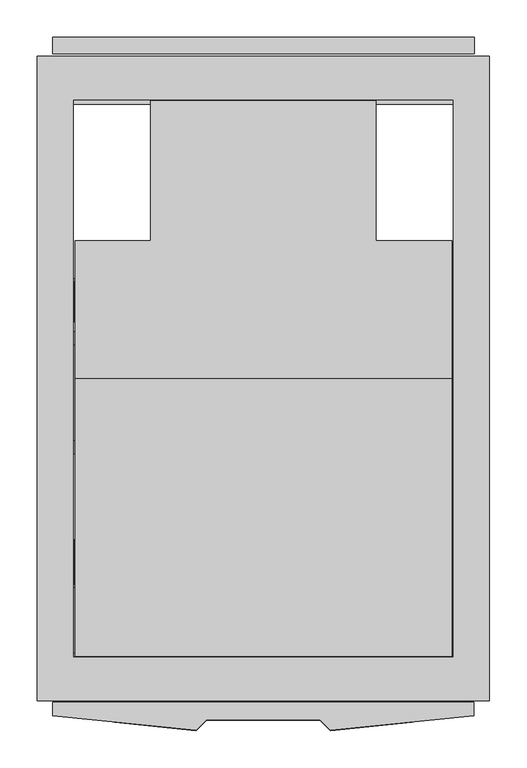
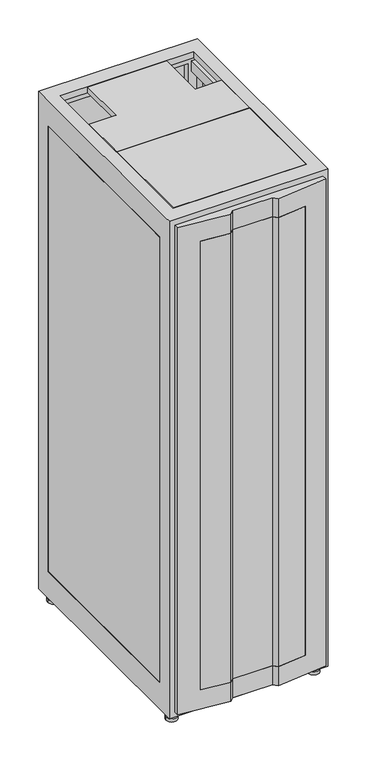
"""IFC4 building model written with IfcOpenShell, lengths in millimetres: electric appliance geometry."""

import ifcopenshell
import ifcopenshell.guid

model = None  # the IFC model being written
_history = None  # IfcOwnerHistory: only IFC2X3 demands one
_inside = {}  # id of a spatial element -> (the spatial element, [elements in it])
_under = {}  # id of a project, library or spatial element -> (it, [spatial elements below it])
_declared = {}  # id of a project -> (the project, [libraries it declares])
_typed = {}  # id of a type object -> (the type object, [elements of that type])
_made_of = {}  # id of a material, layer set ... -> (it, [elements and type objects made of it])


def new_model(schema):
    """Start an empty IFC model of exactly this schema.

    Asked for "IFC4X3", IfcOpenShell would pick the latest addendum, in which some entities
    have other attributes; the version numbers below select the first issue.
    IFC2X3 requires an IfcOwnerHistory on every rooted entity: one is made here for all.
    """
    global model, _history
    if schema == "IFC4X3":
        model = ifcopenshell.file(schema_version=(4, 3, 0, 0))
    else:
        model = ifcopenshell.file(schema=schema)
    _inside.clear()
    _under.clear()
    _declared.clear()
    _typed.clear()
    _made_of.clear()
    _history = None
    if model.schema == "IFC2X3":
        org = make("IfcOrganization", Name="unknown")
        user = make(
            "IfcPersonAndOrganization",
            ThePerson=make("IfcPerson", FamilyName="unknown"),
            TheOrganization=org,
        )
        app = make(
            "IfcApplication",
            ApplicationDeveloper=org,
            Version="unknown",
            ApplicationFullName="unknown",
            ApplicationIdentifier="unknown",
        )
        _history = make(
            "IfcOwnerHistory",
            OwningUser=user,
            OwningApplication=app,
            ChangeAction="ADDED",
            CreationDate=0,
        )
    return model


def make(cls, **values):
    """One entity of the class cls with the attributes given. An attribute that is None is left unset."""
    return model.create_entity(
        cls, **{name: value for name, value in values.items() if value is not None}
    )


def rooted(cls, **values):
    """An entity with a GlobalId (a new one), such as an element, a storey or a relation."""
    return make(cls, GlobalId=ifcopenshell.guid.new(), OwnerHistory=_history, **values)


def si_unit(unit_type, name, prefix=None):
    """IfcSIUnit, for example si_unit("LENGTHUNIT", "METRE", prefix="MILLI")."""
    return make("IfcSIUnit", UnitType=unit_type, Prefix=prefix, Name=name)


def assignment(units):
    """IfcUnitAssignment: the units of a project."""
    return None if units is None else make("IfcUnitAssignment", Units=units)


def point(xyz):
    """IfcCartesianPoint."""
    return None if xyz is None else make("IfcCartesianPoint", Coordinates=xyz)


def direction(xyz):
    """IfcDirection."""
    return None if xyz is None else make("IfcDirection", DirectionRatios=xyz)


def frame(location, z_axis=None, x_axis=None):
    """IfcAxis2Placement3D, a coordinate frame: its origin and axes. An axis left out is left unset."""
    return make(
        "IfcAxis2Placement3D",
        Location=point(location),
        Axis=direction(z_axis),
        RefDirection=direction(x_axis),
    )


def origin():
    """The frame at (0, 0, 0) with its axes left unset."""
    return frame((0.0, 0.0, 0.0))


def place(relative_to, where):
    """IfcLocalPlacement: puts the frame where relative to a parent placement (None: the world)."""
    return make(
        "IfcLocalPlacement", PlacementRelTo=relative_to, RelativePlacement=where
    )


def context(
    kind, dimensions, precision=None, world=None, true_north=None, identifier=None
):
    """IfcGeometricRepresentationContext, for example the 3D "Model" context."""
    return make(
        "IfcGeometricRepresentationContext",
        ContextIdentifier=identifier,
        ContextType=kind,
        CoordinateSpaceDimension=dimensions,
        Precision=precision,
        WorldCoordinateSystem=world,
        TrueNorth=true_north,
    )


def project(units=None, contexts=None):
    """IfcProject with its units and contexts."""
    return rooted(
        "IfcProject",
        Name="project",
        RepresentationContexts=contexts,
        UnitsInContext=assignment(units),
    )


def spatial(cls, under=None, at=None, **own):
    """A site, building, storey or space (cls), placed at a placement, below another one or the project."""
    s = rooted(cls, ObjectPlacement=at, **own)
    if under is not None:
        _under.setdefault(under.id(), (under, []))[1].append(s)
    return s


def polyline(points):
    """IfcPolyline through the points."""
    return make("IfcPolyline", Points=[point(p) for p in points])


def circle_curve(where, radius):
    """IfcCircle in the frame where."""
    return make("IfcCircle", Position=where, Radius=radius)


def outline(outer, holes=None, kind="AREA"):
    """IfcArbitraryClosedProfileDef: a profile drawn as a closed curve; with holes, ...WithVoids."""
    if holes is None:
        return make("IfcArbitraryClosedProfileDef", ProfileType=kind, OuterCurve=outer)
    return make(
        "IfcArbitraryProfileDefWithVoids",
        ProfileType=kind,
        OuterCurve=outer,
        InnerCurves=holes,
    )


def extrude(swept, where, along, depth):
    """IfcExtrudedAreaSolid: the profile swept, set in the frame where, extruded along a direction by depth."""
    return make(
        "IfcExtrudedAreaSolid",
        SweptArea=swept,
        Position=where,
        ExtrudedDirection=direction(along),
        Depth=depth,
    )


def faces_of(points, faces, orient=None, outer=None):
    """IfcFace entities. A face is a list of loops; a loop is a list of indices into points, from 0.

    orient and outer hold one flag for each loop. By default every Orientation is true, the
    first loop of a face is its IfcFaceOuterBound and the others are IfcFaceBound.
    """
    made = []
    for i, loops in enumerate(faces):
        bounds = []
        for j, loop in enumerate(loops):
            is_outer = j == 0 if outer is None else outer[i][j]
            bounds.append(
                make(
                    "IfcFaceOuterBound" if is_outer else "IfcFaceBound",
                    Bound=make("IfcPolyLoop", Polygon=[points[k] for k in loop]),
                    Orientation=True if orient is None else orient[i][j],
                )
            )
        made.append(make("IfcFace", Bounds=bounds))
    return made


def faceted_brep(points, faces, orient=None, outer=None, voids=None):
    """IfcFacetedBrep: a solid bounded by flat faces; with voids (closed shells), ...WithVoids."""
    shared = [point(p) for p in points]
    hull = make("IfcClosedShell", CfsFaces=faces_of(shared, faces, orient, outer))
    if voids is None:
        return make("IfcFacetedBrep", Outer=hull)
    return make(
        "IfcFacetedBrepWithVoids",
        Outer=hull,
        Voids=[
            make(cls, CfsFaces=faces_of(shared, fs, o, b)) for cls, fs, o, b in voids
        ],
    )


def shape(context_of_items, identifier, shape_type, items):
    """IfcShapeRepresentation: the items that make up one representation, for example the "Body"."""
    return make(
        "IfcShapeRepresentation",
        ContextOfItems=context_of_items,
        RepresentationIdentifier=identifier,
        RepresentationType=shape_type,
        Items=items,
    )


def source(mapping_origin, context_of_items, identifier, shape_type, items):
    """IfcRepresentationMap: a shape defined once, which mapped items show again and again."""
    return make(
        "IfcRepresentationMap",
        MappingOrigin=mapping_origin,
        MappedRepresentation=shape(context_of_items, identifier, shape_type, items),
    )


def transform(
    local_origin,
    x_axis=None,
    y_axis=None,
    z_axis=None,
    scale=None,
    scale2=None,
    scale3=None,
    uniform=True,
):
    """IfcCartesianTransformationOperator3D, or its non-uniform kind. x_axis, y_axis, z_axis: its Axis1, 2, 3."""
    if uniform:
        return make(
            "IfcCartesianTransformationOperator3D",
            Axis1=direction(x_axis),
            Axis2=direction(y_axis),
            LocalOrigin=point(local_origin),
            Scale=scale,
            Axis3=direction(z_axis),
        )
    return make(
        "IfcCartesianTransformationOperator3DnonUniform",
        Axis1=direction(x_axis),
        Axis2=direction(y_axis),
        LocalOrigin=point(local_origin),
        Scale=scale,
        Axis3=direction(z_axis),
        Scale2=scale2,
        Scale3=scale3,
    )


def mapped(mapping_source, mapping_target):
    """IfcMappedItem: shows the shape of a source again, moved by a transform."""
    return make(
        "IfcMappedItem", MappingSource=mapping_source, MappingTarget=mapping_target
    )


def made_of(thing, what):
    """Note that an element or type object is made of a material, layer set ...; save() writes the relation."""
    if what is not None:
        _made_of.setdefault(what.id(), (what, []))[1].append(thing)
    return thing


def element(
    cls,
    number,
    at=None,
    inside=None,
    cuts=None,
    type_object=None,
    material=None,
    context=None,
    identifier="Body",
    shape_type=None,
    held_by="IfcProductDefinitionShape",
    body=None,
    shapes=None,
    **own,
):
    """One element of the class cls, such as IfcWall. Its Tag is "e" and its number.

    at: its placement. inside: the storey or other place that contains it. cuts: it is an
    opening in that element (IfcRelVoidsElement). A single representation is given by context,
    identifier, shape_type and body (its items); several are given by shapes. held_by: the class
    of the entity that holds the representations. save() writes the other relations.
    """
    e = rooted(cls, Tag="e%d" % number, ObjectPlacement=at, **own)
    if body is not None:
        shapes = [shape(context, identifier, shape_type, body)]
    if shapes is not None:
        e.Representation = make(held_by, Representations=shapes)
    if inside is not None:
        _inside.setdefault(inside.id(), (inside, []))[1].append(e)
    if cuts is not None:
        rooted(
            "IfcRelVoidsElement", RelatingBuildingElement=cuts, RelatedOpeningElement=e
        )
    if type_object is not None:
        _typed.setdefault(type_object.id(), (type_object, []))[1].append(e)
    return made_of(e, material)


def aggregate(whole, parts):
    """IfcRelAggregates: a whole, such as a stair, and the parts it consists of."""
    return rooted("IfcRelAggregates", RelatingObject=whole, RelatedObjects=parts)


def save(model, path):
    """Write the relations noted so far, then the file.

    IfcRelAggregates (storeys below a building ...), IfcRelContainedInSpatialStructure (elements
    in a storey), IfcRelDefinesByType, IfcRelAssociatesMaterial and IfcRelDeclares: one each for
    every whole, place, type object, material and project.
    """
    for whole, parts in _under.values():
        aggregate(whole, parts)
    for where, things in _inside.values():
        rooted(
            "IfcRelContainedInSpatialStructure",
            RelatedElements=things,
            RelatingStructure=where,
        )
    for kind, things in _typed.values():
        rooted("IfcRelDefinesByType", RelatedObjects=things, RelatingType=kind)
    for what, things in _made_of.values():
        rooted("IfcRelAssociatesMaterial", RelatedObjects=things, RelatingMaterial=what)
    for by, libraries in _declared.values():
        rooted("IfcRelDeclares", RelatingContext=by, RelatedDefinitions=libraries)
    model.write(path)


def plane_surface(at):
    """IfcPlane: the flat surface through the origin of the frame at, square to its z axis."""
    return make("IfcPlane", Position=at)


def cylinder_surface(at, radius):
    """IfcCylindricalSurface: all points at the distance radius from the z axis of the frame at."""
    return make("IfcCylindricalSurface", Position=at, Radius=radius)


def advanced_brep(points, edges, surfaces, faces):
    """IfcAdvancedBrep: a solid bounded by faces that lie on surfaces and meet in shared edges.

    An edge is (start, end): straight between two places in points (the first is 0);
    or (start, end, curve); or (start, end, curve, False) where it runs against its curve.
    A face is (place in surfaces, loops), or (place, loops, False) where it looks against
    its surface's normal. A loop lists edges by number (the first is 1), with a minus sign
    where the edge is run from its end to its start. The first loop is the outer one.
    """
    corners = [point(p) for p in points]
    vertices = [make("IfcVertexPoint", VertexGeometry=c) for c in corners]
    made = []
    for start, end, *more in edges:
        made.append(
            make(
                "IfcEdgeCurve",
                EdgeStart=vertices[start],
                EdgeEnd=vertices[end],
                EdgeGeometry=more[0] if more else make("IfcPolyline", Points=[corners[start], corners[end]]),
                SameSense=more[1] if len(more) > 1 else True,
            )
        )
    hull = []
    for where, loops, *sense in faces:
        bounds = []
        for j, loop in enumerate(loops):
            ring = [make("IfcOrientedEdge", EdgeElement=made[abs(k) - 1], Orientation=k > 0) for k in loop]
            bounds.append(
                make(
                    "IfcFaceOuterBound" if j == 0 else "IfcFaceBound",
                    Bound=make("IfcEdgeLoop", EdgeList=ring),
                    Orientation=True,
                )
            )
        hull.append(make("IfcAdvancedFace", Bounds=bounds, FaceSurface=surfaces[where], SameSense=sense[0] if sense else True))
    return make("IfcAdvancedBrep", Outer=make("IfcClosedShell", CfsFaces=hull))


def electric_appliance_e5aa1008(model_context):
    return source(origin(), model_context, "Body", "SolidModel", [
        advanced_brep(
        [(-292.227, -391.795, 12.7), (-250.063, -391.795, 12.7), (-260.985, -391.795, 12.7), (-281.305, -391.795, 12.7), (-292.227, -391.795, 0.0), (-250.063, -391.795, 0.0), (-281.305, -391.795, 34.2138), (-260.985, -391.795, 34.2138)],
        [
            (0, 1, circle_curve(frame((-271.145, -391.795, 12.7), z_axis=(0.0, 0.0, 1.0), x_axis=(1.0, 0.0, 0.0)), 21.082)),
            (1, 0, circle_curve(frame((-271.145, -391.795, 12.7), z_axis=(0.0, 0.0, 1.0), x_axis=(1.0, 0.0, 0.0)), 21.082)),
            (2, 3, circle_curve(frame((-271.145, -391.795, 12.7), z_axis=(0.0, 0.0, -1.0), x_axis=(1.0, 0.0, 0.0)), 10.16)),
            (3, 2, circle_curve(frame((-271.145, -391.795, 12.7), z_axis=(0.0, 0.0, -1.0), x_axis=(1.0, 0.0, 0.0)), 10.16)),
            (4, 5, circle_curve(frame((-271.145, -391.795, 0.0), z_axis=(0.0, 0.0, -1.0), x_axis=(1.0, 0.0, 0.0)), 21.082)),
            (5, 4, circle_curve(frame((-271.145, -391.795, 0.0), z_axis=(0.0, 0.0, -1.0), x_axis=(1.0, 0.0, 0.0)), 21.082)),
            (0, 4),
            (5, 1),
            (6, 7, circle_curve(frame((-271.145, -391.795, 34.2138), z_axis=(0.0, 0.0, 1.0), x_axis=(1.0, 0.0, 0.0)), 10.16)),
            (7, 6, circle_curve(frame((-271.145, -391.795, 34.2138), z_axis=(0.0, 0.0, 1.0), x_axis=(1.0, 0.0, 0.0)), 10.16)),
            (6, 3),
            (2, 7),
        ],
        [
            plane_surface(frame((-250.063, -391.795, 12.7), z_axis=(0.0, 0.0, 1.0), x_axis=(0.0, 1.0, 0.0))),
            plane_surface(frame((-250.063, -391.795, 0.0), z_axis=(0.0, 0.0, -1.0), x_axis=(0.0, -1.0, 0.0))),
            cylinder_surface(frame((-271.145, -391.795, 0.0), z_axis=(0.0, 0.0, 1.0), x_axis=(1.0, 0.0, 0.0)), 21.082),
            plane_surface(frame((-260.985, -391.795, 34.2138), z_axis=(0.0, 0.0, 1.0), x_axis=(0.0, 1.0, 0.0))),
            cylinder_surface(frame((-271.145, -391.795, 12.7), z_axis=(0.0, 0.0, 1.0), x_axis=(1.0, 0.0, 0.0)), 10.16),
        ],
        [
            (0, [[1, 2], [3, 4]]),
            (1, [[5, 6]]),
            (2, [[-1, 7, -6, 8]]),
            (2, [[-2, -8, -5, -7]]),
            (3, [[9, 10]]),
            (4, [[-9, 11, -3, 12]]),
            (4, [[-10, -12, -4, -11]]),
        ],
    ),
        advanced_brep(
        [(250.063, -391.795, 12.7), (292.227, -391.795, 12.7), (281.305, -391.795, 12.7), (260.985, -391.795, 12.7), (250.063, -391.795, 0.0), (292.227, -391.795, 0.0), (260.985, -391.795, 34.2138), (281.305, -391.795, 34.2138)],
        [
            (0, 1, circle_curve(frame((271.145, -391.795, 12.7), z_axis=(0.0, 0.0, 1.0), x_axis=(1.0, 0.0, 0.0)), 21.082)),
            (1, 0, circle_curve(frame((271.145, -391.795, 12.7), z_axis=(0.0, 0.0, 1.0), x_axis=(1.0, 0.0, 0.0)), 21.082)),
            (2, 3, circle_curve(frame((271.145, -391.795, 12.7), z_axis=(0.0, 0.0, -1.0), x_axis=(1.0, 0.0, 0.0)), 10.16)),
            (3, 2, circle_curve(frame((271.145, -391.795, 12.7), z_axis=(0.0, 0.0, -1.0), x_axis=(1.0, 0.0, 0.0)), 10.16)),
            (4, 5, circle_curve(frame((271.145, -391.795, 0.0), z_axis=(0.0, 0.0, -1.0), x_axis=(1.0, 0.0, 0.0)), 21.082)),
            (5, 4, circle_curve(frame((271.145, -391.795, 0.0), z_axis=(0.0, 0.0, -1.0), x_axis=(1.0, 0.0, 0.0)), 21.082)),
            (6, 7, circle_curve(frame((271.145, -391.795, 34.2138), z_axis=(0.0, 0.0, 1.0), x_axis=(1.0, 0.0, 0.0)), 10.16)),
            (7, 6, circle_curve(frame((271.145, -391.795, 34.2138), z_axis=(0.0, 0.0, 1.0), x_axis=(1.0, 0.0, 0.0)), 10.16)),
            (0, 4),
            (5, 1),
            (6, 3),
            (2, 7),
        ],
        [
            plane_surface(frame((-250.063, -391.795, 12.7), z_axis=(0.0, 0.0, 1.0), x_axis=(0.0, 1.0, 0.0))),
            plane_surface(frame((-250.063, -391.795, 0.0), z_axis=(0.0, 0.0, -1.0), x_axis=(0.0, -1.0, 0.0))),
            plane_surface(frame((-260.985, -391.795, 34.2138), z_axis=(0.0, 0.0, 1.0), x_axis=(0.0, 1.0, 0.0))),
            cylinder_surface(frame((271.145, -391.795, 38.1), z_axis=(0.0, 0.0, 1.0), x_axis=(1.0, 0.0, 0.0)), 21.082),
            cylinder_surface(frame((271.145, -391.795, 38.1), z_axis=(0.0, 0.0, 1.0), x_axis=(1.0, 0.0, 0.0)), 10.16),
        ],
        [
            (0, [[1, 2], [3, 4]]),
            (1, [[5, 6]]),
            (2, [[7, 8]]),
            (3, [[-1, 9, -6, 10]]),
            (3, [[-2, -10, -5, -9]]),
            (4, [[-7, 11, -3, 12]]),
            (4, [[-8, -12, -4, -11]]),
        ],
    ),
        advanced_brep(
        [(-292.227, 391.795, 12.7), (-250.063, 391.795, 12.7), (-260.985, 391.795, 12.7), (-281.305, 391.795, 12.7), (-292.227, 391.795, 0.0), (-250.063, 391.795, 0.0), (-281.305, 391.795, 34.2138), (-260.985, 391.795, 34.2138)],
        [
            (0, 1, circle_curve(frame((-271.145, 391.795, 12.7), z_axis=(0.0, 0.0, 1.0), x_axis=(1.0, 0.0, 0.0)), 21.082)),
            (1, 0, circle_curve(frame((-271.145, 391.795, 12.7), z_axis=(0.0, 0.0, 1.0), x_axis=(1.0, 0.0, 0.0)), 21.082)),
            (2, 3, circle_curve(frame((-271.145, 391.795, 12.7), z_axis=(0.0, 0.0, -1.0), x_axis=(1.0, 0.0, 0.0)), 10.16)),
            (3, 2, circle_curve(frame((-271.145, 391.795, 12.7), z_axis=(0.0, 0.0, -1.0), x_axis=(1.0, 0.0, 0.0)), 10.16)),
            (4, 5, circle_curve(frame((-271.145, 391.795, 0.0), z_axis=(0.0, 0.0, -1.0), x_axis=(1.0, 0.0, 0.0)), 21.082)),
            (5, 4, circle_curve(frame((-271.145, 391.795, 0.0), z_axis=(0.0, 0.0, -1.0), x_axis=(1.0, 0.0, 0.0)), 21.082)),
            (6, 7, circle_curve(frame((-271.145, 391.795, 34.2138), z_axis=(0.0, 0.0, 1.0), x_axis=(1.0, 0.0, 0.0)), 10.16)),
            (7, 6, circle_curve(frame((-271.145, 391.795, 34.2138), z_axis=(0.0, 0.0, 1.0), x_axis=(1.0, 0.0, 0.0)), 10.16)),
            (0, 4),
            (5, 1),
            (6, 3),
            (2, 7),
        ],
        [
            plane_surface(frame((-250.063, -391.795, 12.7), z_axis=(0.0, 0.0, 1.0), x_axis=(0.0, 1.0, 0.0))),
            plane_surface(frame((-250.063, -391.795, 0.0), z_axis=(0.0, 0.0, -1.0), x_axis=(0.0, -1.0, 0.0))),
            plane_surface(frame((-260.985, -391.795, 34.2138), z_axis=(0.0, 0.0, 1.0), x_axis=(0.0, 1.0, 0.0))),
            cylinder_surface(frame((-271.145, 391.795, 38.1), z_axis=(0.0, 0.0, 1.0), x_axis=(1.0, 0.0, 0.0)), 21.082),
            cylinder_surface(frame((-271.145, 391.795, 38.1), z_axis=(0.0, 0.0, 1.0), x_axis=(1.0, 0.0, 0.0)), 10.16),
        ],
        [
            (0, [[1, 2], [3, 4]]),
            (1, [[5, 6]]),
            (2, [[7, 8]]),
            (3, [[-1, 9, -6, 10]]),
            (3, [[-2, -10, -5, -9]]),
            (4, [[-7, 11, -3, 12]]),
            (4, [[-8, -12, -4, -11]]),
        ],
    ),
        advanced_brep(
        [(250.063, 391.795, 12.7), (292.227, 391.795, 12.7), (281.305, 391.795, 12.7), (260.985, 391.795, 12.7), (250.063, 391.795, 0.0), (292.227, 391.795, 0.0), (260.985, 391.795, 34.2138), (281.305, 391.795, 34.2138)],
        [
            (0, 1, circle_curve(frame((271.145, 391.795, 12.7), z_axis=(0.0, 0.0, 1.0), x_axis=(1.0, 0.0, 0.0)), 21.082)),
            (1, 0, circle_curve(frame((271.145, 391.795, 12.7), z_axis=(0.0, 0.0, 1.0), x_axis=(1.0, 0.0, 0.0)), 21.082)),
            (2, 3, circle_curve(frame((271.145, 391.795, 12.7), z_axis=(0.0, 0.0, -1.0), x_axis=(1.0, 0.0, 0.0)), 10.16)),
            (3, 2, circle_curve(frame((271.145, 391.795, 12.7), z_axis=(0.0, 0.0, -1.0), x_axis=(1.0, 0.0, 0.0)), 10.16)),
            (4, 5, circle_curve(frame((271.145, 391.795, 0.0), z_axis=(0.0, 0.0, -1.0), x_axis=(1.0, 0.0, 0.0)), 21.082)),
            (5, 4, circle_curve(frame((271.145, 391.795, 0.0), z_axis=(0.0, 0.0, -1.0), x_axis=(1.0, 0.0, 0.0)), 21.082)),
            (6, 7, circle_curve(frame((271.145, 391.795, 34.2138), z_axis=(0.0, 0.0, 1.0), x_axis=(1.0, 0.0, 0.0)), 10.16)),
            (7, 6, circle_curve(frame((271.145, 391.795, 34.2138), z_axis=(0.0, 0.0, 1.0), x_axis=(1.0, 0.0, 0.0)), 10.16)),
            (0, 4),
            (5, 1),
            (6, 3),
            (2, 7),
        ],
        [
            plane_surface(frame((-250.063, -391.795, 12.7), z_axis=(0.0, 0.0, 1.0), x_axis=(0.0, 1.0, 0.0))),
            plane_surface(frame((-250.063, -391.795, 0.0), z_axis=(0.0, 0.0, -1.0), x_axis=(0.0, -1.0, 0.0))),
            plane_surface(frame((-260.985, -391.795, 34.2138), z_axis=(0.0, 0.0, 1.0), x_axis=(0.0, 1.0, 0.0))),
            cylinder_surface(frame((271.145, 391.795, 38.1), z_axis=(0.0, 0.0, 1.0), x_axis=(1.0, 0.0, 0.0)), 21.082),
            cylinder_surface(frame((271.145, 391.795, 38.1), z_axis=(0.0, 0.0, 1.0), x_axis=(1.0, 0.0, 0.0)), 10.16),
        ],
        [
            (0, [[1, 2], [3, 4]]),
            (1, [[5, 6]]),
            (2, [[7, 8]]),
            (3, [[-1, 9, -6, 10]]),
            (3, [[-2, -10, -5, -9]]),
            (4, [[-7, 11, -3, 12]]),
            (4, [[-8, -12, -4, -11]]),
        ],
    ),
        extrude(outline(polyline([(-90.3045997, -471.2194823), (-199.4154197, -459.9012549), (-199.4154197, -433.7481999), (199.3645803, -433.7481999), (199.3645803, -459.8769545), (90.0496481, -471.2122336), (76.1121591, -457.2432), (-76.3345998, -457.2432), (-90.3045997, -471.2194823)])), frame((0.0, 0.0, 130.71364), z_axis=(0.0, 0.0, 1.0), x_axis=(1.0, 0.0, 0.0)), (0.0, 0.0, 1.0), 1808.75352),
        faceted_brep([(-90.3045997, -471.2194823, 2016.1142), (-76.3345997, -457.2431999, 2016.1142), (76.112159, -457.2431999, 2016.1142), (90.0496482, -471.2122336, 2016.1142), (282.3276482, -451.2741999, 2016.1142), (282.3276482, -433.7481999, 2016.1142), (-282.5825997, -433.7481999, 2016.1142), (-282.5825997, -451.2741999, 2016.1142), (-90.3045997, -471.2194823, 54.0666), (-282.5825997, -451.2741999, 54.0666), (-282.5825997, -433.7481999, 54.0666), (282.3276482, -433.7481999, 54.0666), (282.3276482, -451.2741999, 54.0666), (90.0496482, -471.2122336, 54.0666), (76.112159, -457.2431999, 54.0666), (-76.3345997, -457.2431999, 54.0666), (-90.3045997, -471.2194823, 1939.46716), (-76.3345997, -457.2431999, 1939.46716), (-76.3345997, -457.2431999, 130.71364), (-90.3045997, -471.2194823, 130.71364), (76.112159, -457.2431999, 1939.46716), (76.112159, -457.2431999, 130.71364), (90.0496482, -471.2122336, 1939.46716), (90.0496482, -471.2122336, 130.71364), (199.3645803, -459.8769545, 1939.46716), (199.3645803, -459.8769545, 130.71364), (-199.4154197, -433.7481999, 130.71364), (199.3645803, -433.7481999, 130.71364), (199.3645803, -433.7481999, 1939.46716), (-199.4154197, -433.7481999, 1939.46716), (-199.4154197, -459.9012549, 130.71364), (-199.4154197, -459.9012549, 1939.46716)], [[[0, 1, 2, 3, 4, 5, 6, 7]], [[8, 9, 10, 11, 12, 13, 14, 15]], [[1, 0, 16, 17]], [[8, 15, 18, 19]], [[2, 1, 17, 20]], [[15, 14, 21, 18]], [[3, 2, 20, 22]], [[14, 13, 23, 21]], [[4, 3, 22, 24, 25, 23, 13, 12]], [[5, 4, 12, 11]], [[6, 5, 11, 10], [26, 27, 28, 29]], [[7, 6, 10, 9]], [[0, 7, 9, 8, 19, 30, 31, 16]], [[26, 30, 19, 18, 21, 23, 25, 27]], [[28, 24, 22, 20, 17, 16, 31, 29]], [[30, 26, 29, 31]], [[27, 25, 24, 28]]]),
        extrude(outline(polyline([(-256.31775, 133.35), (-225.3615, 133.35), (-225.3615, 130.7084), (-253.67615, 130.7084), (-253.67615, 76.2), (-256.31775, 76.2), (-256.31775, 133.35)])), frame((0.0, 0.0, 80.772), z_axis=(0.0, 0.0, 1.0), x_axis=(1.0, 0.0, 0.0)), (0.0, 0.0, 1.0), 1901.0884),
        extrude(outline(polyline([(256.31775, 133.35), (256.31775, 76.2), (253.67615, 76.2), (253.67615, 130.7084), (225.3615, 130.7084), (225.3615, 133.35), (256.31775, 133.35)])), frame((0.0, 0.0, 80.772), z_axis=(0.0, 0.0, 1.0), x_axis=(1.0, 0.0, 0.0)), (0.0, 0.0, 1.0), 1901.0884),
        extrude(outline(polyline([(-256.31775, -279.4), (-256.31775, -215.9), (-253.67615, -215.9), (-253.67615, -276.7584), (-225.3615, -276.7584), (-225.3615, -279.4), (-256.31775, -279.4)])), frame((0.0, 0.0, 80.772), z_axis=(0.0, 0.0, 1.0), x_axis=(1.0, 0.0, 0.0)), (0.0, 0.0, 1.0), 1901.0884),
        extrude(outline(polyline([(256.31775, -279.4), (225.3615, -279.4), (225.3615, -276.7584), (253.67615, -276.7584), (253.67615, -215.9), (256.31775, -215.9), (256.31775, -279.4)])), frame((0.0, 0.0, 80.772), z_axis=(0.0, 0.0, 1.0), x_axis=(1.0, 0.0, 0.0)), (0.0, 0.0, 1.0), 1901.0884),
        extrude(outline(polyline([(-262.66775, -400.05), (-283.31795, -400.05), (-283.31795, 400.05), (-262.66775, 400.05), (-262.66775, -400.05)])), frame((0.0, 0.0, 1940.5854), z_axis=(0.0, 0.0, 1.0), x_axis=(1.0, 0.0, 0.0)), (0.0, 0.0, 1.0), 41.275),
        extrude(outline(polyline([(283.31795, -400.05), (262.66775, -400.05), (262.66775, 400.05), (283.31795, 400.05), (283.31795, -400.05)])), frame((0.0, 0.0, 1940.5854), z_axis=(0.0, 0.0, 1.0), x_axis=(1.0, 0.0, 0.0)), (0.0, 0.0, 1.0), 41.275),
        extrude(outline(polyline([(-262.66775, -400.05), (-283.31795, -400.05), (-283.31795, 400.05), (-262.66775, 400.05), (-262.66775, -400.05)])), frame((0.0, 0.0, 85.0138), z_axis=(0.0, 0.0, 1.0), x_axis=(1.0, 0.0, 0.0)), (0.0, 0.0, 1.0), 41.275),
        extrude(outline(polyline([(283.31795, -400.05), (262.66775, -400.05), (262.66775, 400.05), (283.31795, 400.05), (283.31795, -400.05)])), frame((0.0, 0.0, 85.0138), z_axis=(0.0, 0.0, 1.0), x_axis=(1.0, 0.0, 0.0)), (0.0, 0.0, 1.0), 41.275),
        faceted_brep([(-287.02, 407.67, 2014.093), (287.02, 407.67, 2014.093), (287.02, -407.67, 2014.093), (-287.02, -407.67, 2014.093), (254.0, -372.745, 2014.093), (254.0, 372.745, 2014.093), (-253.9746, 372.745, 2014.093), (-253.9746, -372.745, 2014.093), (302.895, 431.8, 2038.35), (-302.895, 431.8, 2038.35), (-302.895, 407.67, 2038.35), (-302.895, -407.67, 2038.35), (-302.895, -431.8, 2038.35), (302.895, -431.8, 2038.35), (302.895, -407.67, 2038.35), (302.895, 407.67, 2038.35), (254.0, -372.745, 2038.35), (-253.9746, -372.745, 2038.35), (-253.9746, 372.745, 2038.35), (254.0, 372.745, 2038.35), (302.895, -431.8, 51.9684), (302.895, -431.8, 34.2138), (302.895, 431.8, 34.2138), (302.895, 431.8, 51.9684), (302.895, 368.3, 1936.8643), (302.895, 368.3, 141.5034), (302.895, -368.3, 141.5034), (302.895, -368.3, 1936.8643), (-302.895, 431.8, 34.2138), (-302.895, 431.8, 51.9684), (254.0, 431.8, 1970.0367), (-253.9746, 431.8, 1970.0367), (-253.9746, 431.8, 98.1583), (254.0, 431.8, 98.1583), (-302.895, -431.8, 34.2138), (-302.895, -431.8, 51.9684), (-302.895, 368.3, 1936.8643), (-302.895, -368.3, 1936.8643), (-302.895, -368.3, 141.5034), (-302.895, 368.3, 141.5034), (254.0, -431.8, 1970.0367), (254.0, -431.8, 98.1583), (-253.9746, -431.8, 98.1583), (-253.9746, -431.8, 1970.0367), (287.02, 407.67, 51.9684), (287.02, 44.7802, 51.9684), (287.02, 44.7802, 80.772), (287.02, -82.2198, 80.772), (287.02, -82.2198, 51.9684), (287.02, -239.395, 51.9684), (287.02, -239.395, 80.772), (287.02, -366.7125, 80.772), (287.02, -366.7125, 51.9684), (287.02, -407.67, 51.9684), (287.02, 368.3, 1936.8643), (287.02, -368.3, 1936.8643), (287.02, -368.3, 141.5034), (287.02, 368.3, 141.5034), (254.0, 366.7125, 34.2138), (-253.9746, 366.7125, 34.2138), (-253.9746, 63.8302, 34.2138), (254.0, 63.8302, 34.2138), (254.0, -101.2698, 34.2138), (-253.9746, -101.2698, 34.2138), (-253.9746, -220.345, 34.2138), (254.0, -220.345, 34.2138), (-287.02, -407.67, 51.9684), (-287.02, -366.7125, 51.9684), (-287.02, -366.7125, 80.772), (-287.02, -239.395, 80.772), (-287.02, -239.395, 51.9684), (-287.02, -82.2198, 51.9684), (-287.02, -82.2198, 80.772), (-287.02, 44.7802, 80.772), (-287.02, 44.7802, 51.9684), (-287.02, 407.67, 51.9684), (-287.02, 368.3, 1936.8643), (-287.02, 368.3, 141.5034), (-287.02, -368.3, 141.5034), (-287.02, -368.3, 1936.8643), (254.0, 407.67, 1970.0367), (254.0, 407.67, 98.1583), (-253.9746, 407.67, 98.1583), (-253.9746, 407.67, 1970.0367), (254.0, -407.67, 1970.0367), (-253.9746, -407.67, 1970.0367), (-253.9746, -407.67, 98.1583), (254.0, -407.67, 98.1583), (-253.9746, 366.7125, 51.9684), (254.0, 366.7125, 51.9684), (254.0, 63.8302, 51.9684), (-253.9746, 63.8302, 51.9684), (-253.9746, -101.2698, 51.9684), (254.0, -101.2698, 51.9684), (254.0, -220.345, 51.9684), (-253.9746, -220.345, 51.9684)], [[[0, 1, 2, 3], [4, 5, 6, 7]], [[8, 9, 10, 11, 12, 13, 14, 15], [16, 17, 18, 19]], [[8, 15, 14, 13, 20, 21, 22, 23], [24, 25, 26, 27]], [[9, 8, 23, 22, 28, 29], [30, 31, 32, 33]], [[10, 9, 29, 28, 34, 35, 12, 11], [36, 37, 38, 39]], [[13, 12, 35, 34, 21, 20], [40, 41, 42, 43]], [[4, 7, 17, 16]], [[7, 6, 18, 17]], [[6, 5, 19, 18]], [[5, 4, 16, 19]], [[2, 1, 44, 45, 46, 47, 48, 49, 50, 51, 52, 53], [54, 55, 56, 57]], [[28, 22, 21, 34], [58, 59, 60, 61], [62, 63, 64, 65]], [[54, 57, 25, 24]], [[57, 56, 26, 25]], [[56, 55, 27, 26]], [[55, 54, 24, 27]], [[0, 3, 66, 67, 68, 69, 70, 71, 72, 73, 74, 75], [76, 77, 78, 79]], [[77, 76, 36, 39]], [[78, 77, 39, 38]], [[79, 78, 38, 37]], [[76, 79, 37, 36]], [[1, 0, 75, 44], [80, 81, 82, 83]], [[81, 80, 30, 33]], [[82, 81, 33, 32]], [[83, 82, 32, 31]], [[80, 83, 31, 30]], [[3, 2, 53, 66], [84, 85, 86, 87]], [[84, 87, 41, 40]], [[87, 86, 42, 41]], [[86, 85, 43, 42]], [[85, 84, 40, 43]], [[44, 75, 74, 45], [88, 89, 90, 91]], [[66, 53, 52, 67]], [[48, 71, 70, 49], [92, 93, 94, 95]], [[89, 58, 61, 90]], [[93, 62, 65, 94]], [[59, 88, 91, 60]], [[63, 92, 95, 64]], [[89, 88, 59, 58]], [[51, 68, 67, 52]], [[68, 51, 50, 69]], [[49, 70, 69, 50]], [[65, 64, 95, 94]], [[63, 62, 93, 92]], [[47, 72, 71, 48]], [[72, 47, 46, 73]], [[73, 46, 45, 74]], [[61, 60, 91, 90]]]),
        extrude(outline(polyline([(-282.5674, 456.8876), (282.5826, 456.8876), (282.5826, 434.6626), (-282.5674, 434.6626), (-282.5674, 456.8876)])), frame((0.0, 0.0, 54.0658), z_axis=(0.0, 0.0, 1.0), x_axis=(1.0, 0.0, 0.0)), (0.0, 0.0, 1.0), 1960.0272),
        extrude(outline(polyline([(252.4125, -0.5207), (252.4125, -371.9957), (-252.4125, -371.9957), (-252.4125, -0.5207), (252.4125, -0.5207)])), frame((0.0, 0.0, 2016.1142), z_axis=(0.0, 0.0, 1.0), x_axis=(1.0, 0.0, 0.0)), (0.0, 0.0, 1.0), 22.2358),
        extrude(outline(polyline([(252.4125, 0.4826), (-252.4125, 0.4826), (-252.4125, 184.6326), (-150.8125, 184.6326), (-150.8125, 371.9576), (150.8125, 371.9576), (150.8125, 184.6326), (252.4125, 184.6326), (252.4125, 0.4826)])), frame((0.0, 0.0, 2016.1142), z_axis=(0.0, 0.0, 1.0), x_axis=(1.0, 0.0, 0.0)), (0.0, 0.0, 1.0), 22.2358),
        extrude(outline(polyline([(-302.895, -366.7125), (-302.895, 366.7125), (-287.02, 366.7125), (-287.02, -366.7125), (-302.895, -366.7125)])), frame((0.0, 0.0, 143.0909), z_axis=(0.0, 0.0, 1.0), x_axis=(1.0, 0.0, 0.0)), (0.0, 0.0, 1.0), 1792.1859),
        extrude(outline(polyline([(302.895, 366.7125), (302.895, -366.7125), (287.02, -366.7125), (287.02, 366.7125), (302.895, 366.7125)])), frame((0.0, 0.0, 143.0909), z_axis=(0.0, 0.0, 1.0), x_axis=(1.0, 0.0, 0.0)), (0.0, 0.0, 1.0), 1792.1859),
    ])


if __name__ == "__main__":
    model = new_model("IFC4")
    model_context = context("Model", 3, world=origin())
    ifc_project = project(units=[si_unit("LENGTHUNIT", "METRE", prefix="MILLI")], contexts=[model_context])
    site = spatial("IfcSite", under=ifc_project)
    building = spatial("IfcBuilding", under=site)
    placement = place(None, origin())
    electric_appliance_shape = electric_appliance_e5aa1008(model_context)
    element("IfcElectricAppliance", 1, ObjectType="Cabinet-Network-Ortronics-Preconfigured-Mighty_Mo : 42 RU x 24\" W x 36\" D", at=placement, inside=building, context=model_context, shape_type="MappedRepresentation", body=[
        mapped(electric_appliance_shape, transform((0.0, 0.0, 0.0), x_axis=(1.0, 0.0, 0.0), y_axis=(0.0, 1.0, 0.0), z_axis=(0.0, 0.0, 1.0))),
    ])
    save(model, "model.ifc")
